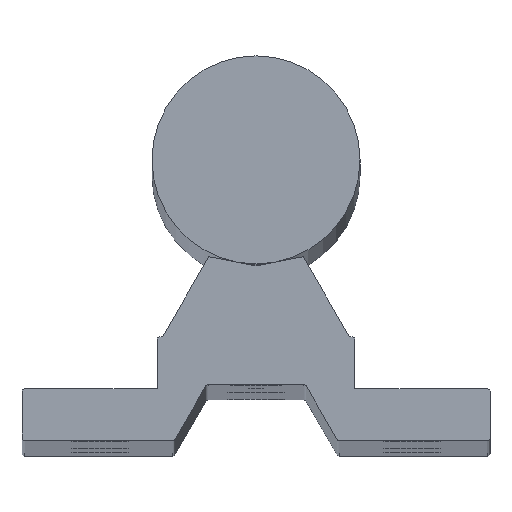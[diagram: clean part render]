
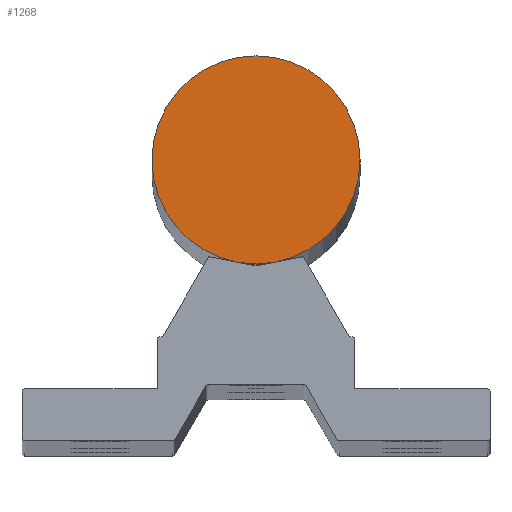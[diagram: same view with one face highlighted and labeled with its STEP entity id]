
A CAD part, top view. The second image highlights one B-rep face of the part: STEP entity #1268.
In plain terms, the highlighted planar face has unit normal (0, 0, 1).
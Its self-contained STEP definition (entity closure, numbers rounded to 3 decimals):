
#52 = DIRECTION ( 'NONE',  ( 1., 0., 0. ) ) ;
#277 = PLANE ( 'NONE',  #2904 ) ;
#340 = AXIS2_PLACEMENT_3D ( 'NONE', #1287, #2169, #2877 ) ;
#408 = EDGE_CURVE ( 'NONE', #2425, #2092, #1532, .T. ) ;
#974 = CARTESIAN_POINT ( 'NONE',  ( 0., 0., 425. ) ) ;
#1196 = FACE_OUTER_BOUND ( 'NONE', #2761, .T. ) ;
#1228 = ORIENTED_EDGE ( 'NONE', *, *, #408, .T. ) ;
#1268 = ADVANCED_FACE ( 'NONE', ( #1196 ), #277, .T. ) ;
#1287 = CARTESIAN_POINT ( 'NONE',  ( 0., 0., 425. ) ) ;
#1532 = CIRCLE ( 'NONE', #340, 10. ) ;
#1726 = DIRECTION ( 'NONE',  ( 0., 0., 1. ) ) ;
#1837 = EDGE_CURVE ( 'NONE', #2092, #2425, #2515, .T. ) ;
#1884 = ORIENTED_EDGE ( 'NONE', *, *, #1837, .T. ) ;
#1947 = AXIS2_PLACEMENT_3D ( 'NONE', #2896, #1726, #2650 ) ;
#2092 = VERTEX_POINT ( 'NONE', #2320 ) ;
#2101 = DIRECTION ( 'NONE',  ( 0., 0., 1. ) ) ;
#2169 = DIRECTION ( 'NONE',  ( 0., 0., 1. ) ) ;
#2210 = CARTESIAN_POINT ( 'NONE',  ( -10., 0., 425. ) ) ;
#2320 = CARTESIAN_POINT ( 'NONE',  ( 10., 0., 425. ) ) ;
#2425 = VERTEX_POINT ( 'NONE', #2210 ) ;
#2515 = CIRCLE ( 'NONE', #1947, 10. ) ;
#2650 = DIRECTION ( 'NONE',  ( 1., 0., 0. ) ) ;
#2761 = EDGE_LOOP ( 'NONE', ( #1228, #1884 ) ) ;
#2877 = DIRECTION ( 'NONE',  ( 1., 0., 0. ) ) ;
#2896 = CARTESIAN_POINT ( 'NONE',  ( 0., 0., 425. ) ) ;
#2904 = AXIS2_PLACEMENT_3D ( 'NONE', #974, #2101, #52 ) ;
